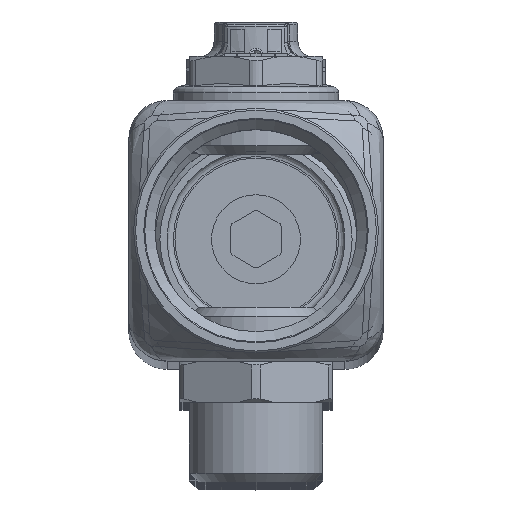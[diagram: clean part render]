
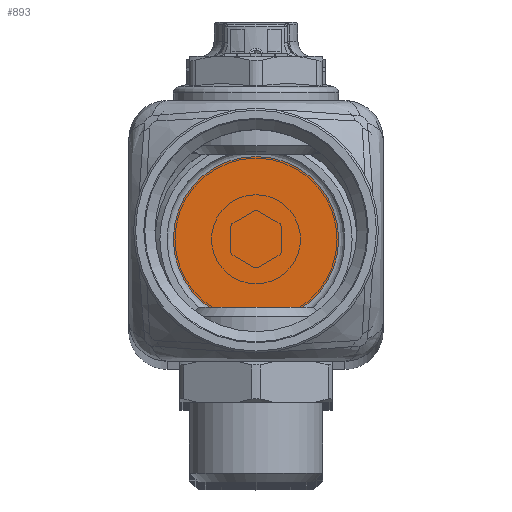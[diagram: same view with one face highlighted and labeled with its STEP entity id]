
A CAD part, top view. The second image highlights one B-rep face of the part: STEP entity #893.
In plain terms, the highlighted planar face has unit normal (0, 0, 1).
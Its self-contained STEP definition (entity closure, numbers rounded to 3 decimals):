
#893=ADVANCED_FACE('',(#10877),#10879,.T.);
#10877=FACE_BOUND('',#10878,.T.);
#10878=EDGE_LOOP('',(#15382));
#10879=PLANE('',#10880);
#10880=AXIS2_PLACEMENT_3D('',#10881,#10882,#10883);
#10881=CARTESIAN_POINT('',(0.,0.,-384.75));
#10882=DIRECTION('',(0.,0.,1.));
#10883=DIRECTION('',(1.,0.,0.));
#15382=ORIENTED_EDGE('',*,*,#18927,.T.);
#18927=EDGE_CURVE('',#22827,#22827,#22828,.T.);
#22827=VERTEX_POINT('',#36206);
#22828=CIRCLE('',#36207,13.);
#36206=CARTESIAN_POINT('',(13.,0.,-384.75));
#36207=AXIS2_PLACEMENT_3D('',#36208,#36209,#36210);
#36208=CARTESIAN_POINT('',(0.,0.,-384.75));
#36209=DIRECTION('',(0.,0.,1.));
#36210=DIRECTION('',(1.,0.,0.));
